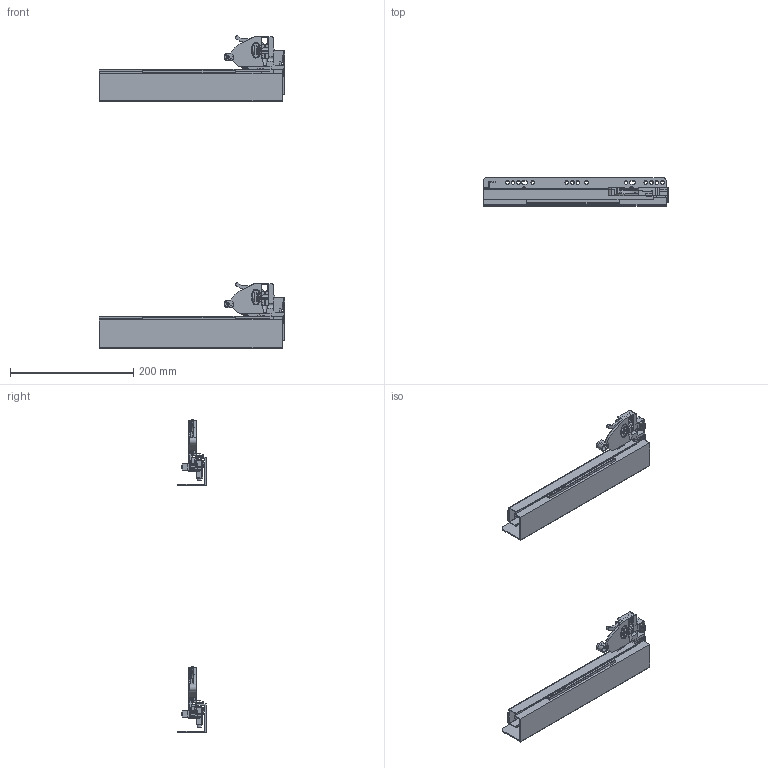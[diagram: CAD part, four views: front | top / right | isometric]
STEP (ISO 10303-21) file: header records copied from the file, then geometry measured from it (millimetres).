
FILE_DESCRIPTION(/* description */ (''),/* implementation_level */ '2;1');
FILE_NAME(/* name */ 'C:\Users\dmitruk\Documents\WORK\НАПРАВЛЯЮЩИЕ\Скрытого монтажаНаправляющие скрытого монтажа 3D-300.stp',/* time_stamp */ '2022-07-29T12:21:09+03:00',/* author */ ('dmitruk'),/* organization */ (''),/* preprocessor_version */ 'ST-DEVELOPER v16.5',/* originating_system */ 'Autodesk Inventor 2017',/* authorisation */ '');
FILE_SCHEMA (('AUTOMOTIVE_DESIGN { 1 0 10303 214 3 1 1 }'));
Length unit declared in the file: millimetre
Products named in the file (6): Направляющие \X2\0441043A
0440044B0442043E0433043E\X0\ монтажа 3D; Направляющие \X2\0441043A
0440044B0442043E0433043E\X0\ монтажа 3D \X2\043F
044004300432\X0\; 3D CP; 3D DP; Крепление 3D \X2\043B
04350432\X0\; 3D Направляющие \X2\0441043A
0440044B0442043E0433043E\X0\ монтажа \X2\043F
043E043B043D043E0433043E\X0\ \X2\0432044B04340432043804360435043D0438044F
\X0\ slim DW slim slide
Assembly tree (6 placements, depth 3):
  Направляющие \X2\0441043A
0440044B0442043E0433043E\X0\ монтажа 3D
    Направляющие \X2\0441043A
0440044B0442043E0433043E\X0\ монтажа 3D \X2\043F
044004300432\X0\  x2
      3D CP
      3D DP
      Крепление 3D \X2\043B
04350432\X0\
      3D Направляющие \X2\0441043A
0440044B0442043E0433043E\X0\ монтажа \X2\043F
043E043B043D043E0433043E\X0\ \X2\0432044B04340432043804360435043D0438044F
\X0\ slim DW slim slide
Bounding box: 300 x 46 x 506.67 mm (x, y, z)
Volume: 239849 mm3; surface area: 294443.2 mm2
Topology: 24 solids, 24 shells, 994 faces, 2810 edges, 1850 vertices
Faces by surface type: plane 772, cylinder 208, cone 6, sphere 4, bspline 2, torus 2
Full cylindrical faces by diameter (mm): 3.8 x10, 6 x52, 7 x2, 12 x4
Entity records: 16307 total; most frequent: CARTESIAN_POINT 2955, ORIENTED_EDGE 2734, DIRECTION 2605, EDGE_CURVE 1364, LINE 1127, VECTOR 1127, VERTEX_POINT 921, AXIS2_PLACEMENT_3D 739
